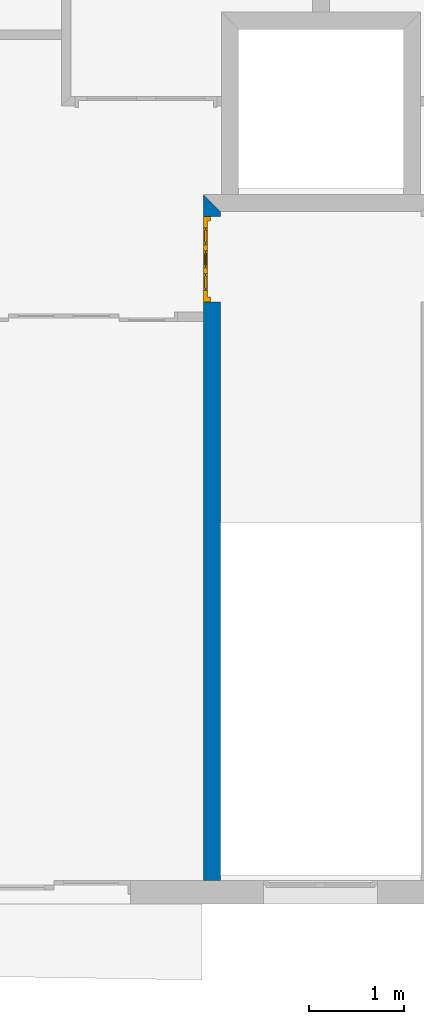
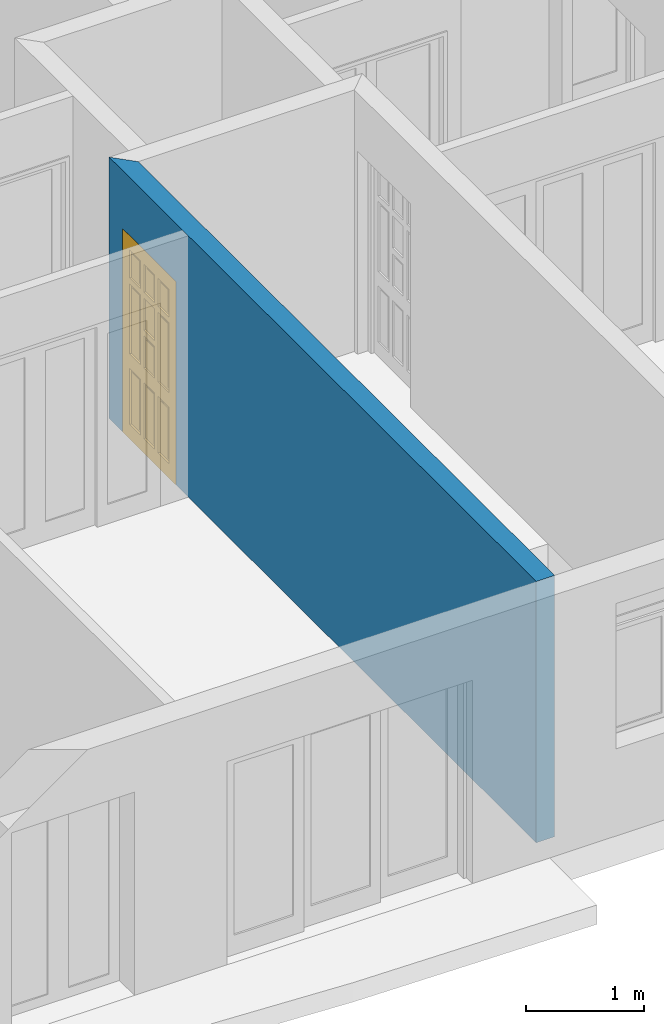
# One storey, part 5 of 12: 1 door, 1 wall, 1 opening.
"""IFC2X3 building model written with IfcOpenShell, lengths in metres."""

from ifc_helpers import new_model, entity, si_unit, converted_unit, direction, frame, frame_2d, origin_with_axes, place, context, project, spatial, polyline, rectangle, outline, extrude, faceted_brep, source, transform, mapped, material, layer, layer_set, layer_usage, type_object, element, fill, save


model = new_model("IFC2X3")

# Units and contexts
context_of_model = context(None, 3, precision=1e-05, world=origin_with_axes(), true_north=direction((6.123234e-17, 1.0)))
plan_context = context("Plan", 3, precision=1e-05, world=origin_with_axes(), true_north=direction((6.123234e-17, 1.0)))
model_context = context("Model", 3, precision=1e-05, world=origin_with_axes(), true_north=direction((6.123234e-17, 1.0)))
ifc_project = project(units=[si_unit("LENGTHUNIT", "METRE"), si_unit("AREAUNIT", "SQUARE_METRE"), si_unit("VOLUMEUNIT", "CUBIC_METRE"), converted_unit("PLANEANGLEUNIT", "DEGREE", entity("IfcPlaneAngleMeasure", 0.017453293), si_unit("PLANEANGLEUNIT", "RADIAN"), dimensions=[0, 0, 0, 0, 0, 0, 0]), si_unit("SOLIDANGLEUNIT", "STERADIAN"), si_unit("MASSUNIT", "GRAM"), si_unit("TIMEUNIT", "SECOND"), si_unit("THERMODYNAMICTEMPERATUREUNIT", "DEGREE_CELSIUS"), si_unit("LUMINOUSINTENSITYUNIT", "LUMEN")], contexts=[context_of_model, plan_context, model_context])

# Site, building, storey
site_placement = place(None, origin_with_axes())
site = spatial("IfcSite", under=ifc_project, at=site_placement, Name="Por defecto Sitio", CompositionType="ELEMENT")
building_placement = place(site_placement, origin_with_axes())
building = spatial("IfcBuilding", under=site, at=building_placement, Name="Por defecto Edificio", CompositionType="ELEMENT")
storey_placement = place(building_placement, frame((0.0, 0.0, 10.2), z_axis=(0.0, 0.0, 1.0), x_axis=(1.0, 0.0, 0.0)))
storey = spatial("IfcBuildingStorey", under=building, at=storey_placement, Name="Tercera", CompositionType="ELEMENT", Elevation=10.2)

# Wall, opening, door
ifc_material = material(Name="Ladrillo común")
ifc_layer = layer(ifc_material, 0.18, ventilated="UNKNOWN")
ifc_layer_set = layer_set([ifc_layer], Name="Ladrillo común")
ifc_layer_usage = layer_usage(ifc_layer_set, "AXIS2", "NEGATIVE", 0.0)
wall_type = type_object("IfcWallType", Name="Ladrillo común", PredefinedType="NOTDEFINED")
wall_placement = place(storey_placement, frame((6.9566603, 7.2976562, 0.0), z_axis=(0.0, 0.0, 1.0), x_axis=(0.0, -1.0, 0.0)))
wall = element("IfcWallStandardCase", 1, at=wall_placement, inside=storey, type_object=wall_type, material=ifc_layer_usage, Name="Muro-010", context=context_of_model, shape_type="SweptSolid", body=[
    extrude(outline(polyline([(-0.18, -0.18), (7.0476562, -0.18), (7.0476562, 0.0), (-8.0824236e-14, 0.0), (-0.18, -0.18)])), origin_with_axes(), (0.0, 0.0, 1.0), 2.7),
])
opening_placement = place(wall_placement, frame((0.5, -0.18, 0.0), z_axis=(0.0, 0.0, 1.0), x_axis=(1.0, 0.0, 0.0)))
opening = element("IfcOpeningElement", 2, at=opening_placement, cuts=wall, ObjectType="Opening", context=model_context, shape_type="SweptSolid", body=[
    extrude(rectangle(XDim=0.9, YDim=2.1, at=frame_2d((0.0, 1.05), x_axis=(-1.0, 0.0))), frame((0.0, 0.0, 0.0), z_axis=(0.0, 1.0, 0.0), x_axis=(-1.0, 0.0, 0.0)), (0.0, 0.0, 1.0), 0.18),
])
door_style = type_object("IfcDoorStyle", Name="P1 Entrada 12", ConstructionType="NOTDEFINED", OperationType="SINGLE_SWING_LEFT", ParameterTakesPrecedence=False, Sizeable=False)
shared_shape = source(origin_with_axes(), model_context, "Body", "Brep", [
    faceted_brep([(0.85, 0.031, 0.0), (0.85, -8.8817842e-16, 0.0), (0.85, -8.8817842e-16, 2.05), (0.85, 0.031, 2.05), (0.862, 0.031, 0.0), (0.862, 0.075, 0.0), (0.9, 0.075, 0.0), (0.9, -8.8817842e-16, 0.0), (0.9, -8.8817842e-16, 2.05), (0.862, 0.031, 2.05), (0.9, 0.075, 2.05), (0.862, 0.075, 2.05)], [[[0, 1, 2, 3]], [[4, 5, 6, 7, 1, 0]], [[7, 8, 2, 1]], [[9, 3, 2, 8, 10, 11]], [[9, 4, 0, 3]], [[11, 5, 4, 9]], [[11, 10, 6, 5]], [[8, 7, 6, 10]]]),
    faceted_brep([(0.038, 0.031, 2.05), (0.038, 0.075, 2.05), (0.0, 0.075, 2.05), (0.0, -8.8817842e-16, 2.05), (0.05, -8.8817842e-16, 2.05), (0.05, 0.031, 2.05), (0.038, 0.031, 0.0), (0.038, 0.075, 0.0), (0.0, 0.075, 0.0), (0.0, 0.0, 0.0), (0.05, -8.8817842e-16, 0.0), (0.05, 0.031, 0.0)], [[[0, 1, 2, 3, 4, 5]], [[0, 6, 7, 1]], [[7, 8, 2, 1]], [[9, 3, 2, 8]], [[10, 4, 3, 9]], [[5, 4, 10, 11]], [[5, 11, 6, 0]], [[6, 11, 10, 9, 8, 7]]]),
    faceted_brep([(0.862, 0.075, 2.062), (0.038, 0.075, 2.062), (0.038, 0.075, 2.05), (0.0, 0.075, 2.05), (0.0, 0.075, 2.1), (0.9, 0.075, 2.1), (0.9, 0.075, 2.05), (0.862, 0.075, 2.05), (0.862, 0.031, 2.062), (0.038, 0.031, 2.062), (0.038, 0.031, 2.05), (0.05, 0.031, 2.05), (0.05, -8.8817842e-16, 2.05), (0.0, -8.8817842e-16, 2.05), (0.0, -8.8817842e-16, 2.1), (0.9, -8.8817842e-16, 2.1), (0.9, -8.8817842e-16, 2.05), (0.862, 0.031, 2.05), (0.85, -8.8817842e-16, 2.05), (0.85, 0.031, 2.05)], [[[0, 1, 2, 3, 4, 5, 6, 7]], [[0, 8, 9, 1]], [[1, 9, 10, 2]], [[10, 11, 12, 13, 3, 2]], [[13, 14, 4, 3]], [[14, 15, 5, 4]], [[15, 16, 6, 5]], [[17, 7, 6, 16, 18, 19]], [[7, 17, 8, 0]], [[10, 9, 8, 17, 19, 11]], [[19, 18, 12, 11]], [[14, 13, 12, 18, 16, 15]]]),
    faceted_brep([(0.038, 0.075, 0.15), (0.118, 0.075, 0.15), (0.118, 0.031, 0.15), (0.038, 0.031, 0.15), (0.038, 0.075, 1.952), (0.118, 0.075, 1.952), (0.118, 0.075, 1.6618667), (0.118, 0.075, 1.6018667), (0.118, 0.075, 0.88), (0.118, 0.075, 0.73), (0.118, 0.031, 0.73), (0.118, 0.031, 0.88), (0.118, 0.031, 1.6018667), (0.118, 0.031, 1.6618667), (0.118, 0.031, 1.952), (0.038, 0.031, 1.952)], [[[0, 1, 2, 3]], [[0, 4, 5, 6, 7, 8, 9, 1]], [[1, 9, 10, 2]], [[3, 2, 10, 11, 12, 13, 14, 15]], [[4, 0, 3, 15]], [[5, 4, 15, 14]], [[6, 5, 14, 13]], [[7, 6, 13, 12]], [[8, 7, 12, 11]], [[9, 8, 11, 10]]]),
    faceted_brep([(0.862, 0.075, 0.15), (0.862, 0.075, 1.952), (0.862, 0.031, 1.952), (0.862, 0.031, 0.15), (0.782, 0.075, 0.15), (0.782, 0.075, 0.73), (0.782, 0.075, 0.88), (0.782, 0.075, 1.6018667), (0.782, 0.075, 1.6618667), (0.782, 0.075, 1.952), (0.782, 0.031, 1.952), (0.782, 0.031, 1.6618667), (0.782, 0.031, 1.6018667), (0.782, 0.031, 0.88), (0.782, 0.031, 0.73), (0.782, 0.031, 0.15)], [[[0, 1, 2, 3]], [[0, 4, 5, 6, 7, 8, 9, 1]], [[1, 9, 10, 2]], [[3, 2, 10, 11, 12, 13, 14, 15]], [[4, 0, 3, 15]], [[5, 4, 15, 14]], [[6, 5, 14, 13]], [[7, 6, 13, 12]], [[8, 7, 12, 11]], [[9, 8, 11, 10]]]),
    faceted_brep([(0.038, 0.075, 0.0), (0.862, 0.075, 0.0), (0.862, 0.031, 0.0), (0.038, 0.031, 0.0), (0.038, 0.075, 0.15), (0.118, 0.075, 0.15), (0.29933333, 0.075, 0.15), (0.35933333, 0.075, 0.15), (0.54066667, 0.075, 0.15), (0.60066667, 0.075, 0.15), (0.782, 0.075, 0.15), (0.862, 0.075, 0.15), (0.862, 0.031, 0.15), (0.782, 0.031, 0.15), (0.60066667, 0.031, 0.15), (0.54066667, 0.031, 0.15), (0.35933333, 0.031, 0.15), (0.29933333, 0.031, 0.15), (0.118, 0.031, 0.15), (0.038, 0.031, 0.15)], [[[0, 1, 2, 3]], [[0, 4, 5, 6, 7, 8, 9, 10, 11, 1]], [[1, 11, 12, 2]], [[3, 2, 12, 13, 14, 15, 16, 17, 18, 19]], [[4, 0, 3, 19]], [[5, 4, 19, 18]], [[6, 5, 18, 17]], [[7, 6, 17, 16]], [[8, 7, 16, 15]], [[9, 8, 15, 14]], [[10, 9, 14, 13]], [[11, 10, 13, 12]]]),
    faceted_brep([(0.038, 0.075, 2.062), (0.038, 0.075, 1.952), (0.038, 0.031, 1.952), (0.038, 0.031, 2.062), (0.862, 0.075, 2.062), (0.862, 0.075, 1.952), (0.782, 0.075, 1.952), (0.60066667, 0.075, 1.952), (0.54066667, 0.075, 1.952), (0.35933333, 0.075, 1.952), (0.29933333, 0.075, 1.952), (0.118, 0.075, 1.952), (0.118, 0.031, 1.952), (0.29933333, 0.031, 1.952), (0.35933333, 0.031, 1.952), (0.54066667, 0.031, 1.952), (0.60066667, 0.031, 1.952), (0.782, 0.031, 1.952), (0.862, 0.031, 1.952), (0.862, 0.031, 2.062)], [[[0, 1, 2, 3]], [[0, 4, 5, 6, 7, 8, 9, 10, 11, 1]], [[1, 11, 12, 2]], [[3, 2, 12, 13, 14, 15, 16, 17, 18, 19]], [[4, 0, 3, 19]], [[5, 4, 19, 18]], [[6, 5, 18, 17]], [[7, 6, 17, 16]], [[8, 7, 16, 15]], [[9, 8, 15, 14]], [[10, 9, 14, 13]], [[11, 10, 13, 12]]]),
    faceted_brep([(0.35933333, 0.075, 0.15), (0.35933333, 0.075, 0.73), (0.35933333, 0.031, 0.73), (0.35933333, 0.031, 0.15), (0.29933333, 0.075, 0.15), (0.29933333, 0.075, 0.73), (0.29933333, 0.031, 0.73), (0.29933333, 0.031, 0.15)], [[[0, 1, 2, 3]], [[0, 4, 5, 1]], [[1, 5, 6, 2]], [[3, 2, 6, 7]], [[4, 0, 3, 7]], [[5, 4, 7, 6]]]),
    faceted_brep([(0.35933333, 0.075, 0.88), (0.35933333, 0.075, 1.2109333), (0.35933333, 0.031, 1.2109333), (0.35933333, 0.031, 0.88), (0.29933333, 0.075, 0.88), (0.29933333, 0.075, 1.6018667), (0.35933333, 0.075, 1.6018667), (0.35933333, 0.075, 1.2709333), (0.35933333, 0.031, 1.2709333), (0.35933333, 0.031, 1.6018667), (0.29933333, 0.031, 1.6018667), (0.29933333, 0.031, 0.88)], [[[0, 1, 2, 3]], [[0, 4, 5, 6, 7, 1]], [[1, 7, 8, 2]], [[3, 2, 8, 9, 10, 11]], [[4, 0, 3, 11]], [[5, 4, 11, 10]], [[6, 5, 10, 9]], [[7, 6, 9, 8]]]),
    faceted_brep([(0.35933333, 0.075, 1.6618667), (0.35933333, 0.075, 1.952), (0.35933333, 0.031, 1.952), (0.35933333, 0.031, 1.6618667), (0.29933333, 0.075, 1.6618667), (0.29933333, 0.075, 1.952), (0.29933333, 0.031, 1.952), (0.29933333, 0.031, 1.6618667)], [[[0, 1, 2, 3]], [[0, 4, 5, 1]], [[1, 5, 6, 2]], [[3, 2, 6, 7]], [[4, 0, 3, 7]], [[5, 4, 7, 6]]]),
    faceted_brep([(0.60066667, 0.075, 0.15), (0.60066667, 0.075, 0.73), (0.60066667, 0.031, 0.73), (0.60066667, 0.031, 0.15), (0.54066667, 0.075, 0.15), (0.54066667, 0.075, 0.73), (0.54066667, 0.031, 0.73), (0.54066667, 0.031, 0.15)], [[[0, 1, 2, 3]], [[0, 4, 5, 1]], [[1, 5, 6, 2]], [[3, 2, 6, 7]], [[4, 0, 3, 7]], [[5, 4, 7, 6]]]),
    faceted_brep([(0.60066667, 0.075, 0.88), (0.60066667, 0.075, 1.6018667), (0.60066667, 0.031, 1.6018667), (0.60066667, 0.031, 0.88), (0.54066667, 0.075, 0.88), (0.54066667, 0.075, 1.2109333), (0.54066667, 0.075, 1.2709333), (0.54066667, 0.075, 1.6018667), (0.54066667, 0.031, 1.6018667), (0.54066667, 0.031, 1.2709333), (0.54066667, 0.031, 1.2109333), (0.54066667, 0.031, 0.88)], [[[0, 1, 2, 3]], [[0, 4, 5, 6, 7, 1]], [[1, 7, 8, 2]], [[3, 2, 8, 9, 10, 11]], [[4, 0, 3, 11]], [[5, 4, 11, 10]], [[6, 5, 10, 9]], [[7, 6, 9, 8]]]),
    faceted_brep([(0.60066667, 0.075, 1.6618667), (0.60066667, 0.075, 1.952), (0.60066667, 0.031, 1.952), (0.60066667, 0.031, 1.6618667), (0.54066667, 0.075, 1.6618667), (0.54066667, 0.075, 1.952), (0.54066667, 0.031, 1.952), (0.54066667, 0.031, 1.6618667)], [[[0, 1, 2, 3]], [[0, 4, 5, 1]], [[1, 5, 6, 2]], [[3, 2, 6, 7]], [[4, 0, 3, 7]], [[5, 4, 7, 6]]]),
    faceted_brep([(0.118, 0.075, 1.6018667), (0.29933333, 0.075, 1.6018667), (0.29933333, 0.031, 1.6018667), (0.118, 0.031, 1.6018667), (0.118, 0.075, 1.6618667), (0.29933333, 0.075, 1.6618667), (0.35933333, 0.075, 1.6618667), (0.54066667, 0.075, 1.6618667), (0.60066667, 0.075, 1.6618667), (0.782, 0.075, 1.6618667), (0.782, 0.075, 1.6018667), (0.60066667, 0.075, 1.6018667), (0.54066667, 0.075, 1.6018667), (0.35933333, 0.075, 1.6018667), (0.35933333, 0.031, 1.6018667), (0.54066667, 0.031, 1.6018667), (0.60066667, 0.031, 1.6018667), (0.782, 0.031, 1.6018667), (0.782, 0.031, 1.6618667), (0.60066667, 0.031, 1.6618667), (0.54066667, 0.031, 1.6618667), (0.35933333, 0.031, 1.6618667), (0.29933333, 0.031, 1.6618667), (0.118, 0.031, 1.6618667)], [[[0, 1, 2, 3]], [[0, 4, 5, 6, 7, 8, 9, 10, 11, 12, 13, 1]], [[1, 13, 14, 2]], [[3, 2, 14, 15, 16, 17, 18, 19, 20, 21, 22, 23]], [[4, 0, 3, 23]], [[5, 4, 23, 22]], [[6, 5, 22, 21]], [[7, 6, 21, 20]], [[8, 7, 20, 19]], [[9, 8, 19, 18]], [[10, 9, 18, 17]], [[11, 10, 17, 16]], [[12, 11, 16, 15]], [[13, 12, 15, 14]]]),
    faceted_brep([(0.54066667, 0.075, 1.2109333), (0.54066667, 0.075, 1.2709333), (0.54066667, 0.031, 1.2709333), (0.54066667, 0.031, 1.2109333), (0.35933333, 0.075, 1.2109333), (0.35933333, 0.075, 1.2709333), (0.35933333, 0.031, 1.2709333), (0.35933333, 0.031, 1.2109333)], [[[0, 1, 2, 3]], [[0, 4, 5, 1]], [[1, 5, 6, 2]], [[3, 2, 6, 7]], [[4, 0, 3, 7]], [[5, 4, 7, 6]]]),
    faceted_brep([(0.118, 0.075, 0.73), (0.29933333, 0.075, 0.73), (0.29933333, 0.031, 0.73), (0.118, 0.031, 0.73), (0.118, 0.075, 0.88), (0.29933333, 0.075, 0.88), (0.35933333, 0.075, 0.88), (0.54066667, 0.075, 0.88), (0.60066667, 0.075, 0.88), (0.782, 0.075, 0.88), (0.782, 0.075, 0.73), (0.60066667, 0.075, 0.73), (0.54066667, 0.075, 0.73), (0.35933333, 0.075, 0.73), (0.35933333, 0.031, 0.73), (0.54066667, 0.031, 0.73), (0.60066667, 0.031, 0.73), (0.782, 0.031, 0.73), (0.782, 0.031, 0.88), (0.60066667, 0.031, 0.88), (0.54066667, 0.031, 0.88), (0.35933333, 0.031, 0.88), (0.29933333, 0.031, 0.88), (0.118, 0.031, 0.88)], [[[0, 1, 2, 3]], [[0, 4, 5, 6, 7, 8, 9, 10, 11, 12, 13, 1]], [[1, 13, 14, 2]], [[3, 2, 14, 15, 16, 17, 18, 19, 20, 21, 22, 23]], [[4, 0, 3, 23]], [[5, 4, 23, 22]], [[6, 5, 22, 21]], [[7, 6, 21, 20]], [[8, 7, 20, 19]], [[9, 8, 19, 18]], [[10, 9, 18, 17]], [[11, 10, 17, 16]], [[12, 11, 16, 15]], [[13, 12, 15, 14]]]),
    faceted_brep([(0.118, 0.058, 0.15), (0.29933333, 0.058, 0.15), (0.29933333, 0.048, 0.15), (0.118, 0.048, 0.15), (0.118, 0.058, 0.73), (0.29933333, 0.058, 0.73), (0.29933333, 0.048, 0.73), (0.118, 0.048, 0.73)], [[[0, 1, 2, 3]], [[0, 4, 5, 1]], [[1, 5, 6, 2]], [[3, 2, 6, 7]], [[4, 0, 3, 7]], [[5, 4, 7, 6]]]),
    faceted_brep([(0.35933333, 0.058, 0.15), (0.54066667, 0.058, 0.15), (0.54066667, 0.048, 0.15), (0.35933333, 0.048, 0.15), (0.35933333, 0.058, 0.73), (0.54066667, 0.058, 0.73), (0.54066667, 0.048, 0.73), (0.35933333, 0.048, 0.73)], [[[0, 1, 2, 3]], [[0, 4, 5, 1]], [[1, 5, 6, 2]], [[3, 2, 6, 7]], [[4, 0, 3, 7]], [[5, 4, 7, 6]]]),
    faceted_brep([(0.60066667, 0.058, 0.15), (0.782, 0.058, 0.15), (0.782, 0.048, 0.15), (0.60066667, 0.048, 0.15), (0.60066667, 0.058, 0.73), (0.782, 0.058, 0.73), (0.782, 0.048, 0.73), (0.60066667, 0.048, 0.73)], [[[0, 1, 2, 3]], [[0, 4, 5, 1]], [[1, 5, 6, 2]], [[3, 2, 6, 7]], [[4, 0, 3, 7]], [[5, 4, 7, 6]]]),
    faceted_brep([(0.118, 0.058, 1.6618667), (0.29933333, 0.058, 1.6618667), (0.29933333, 0.048, 1.6618667), (0.118, 0.048, 1.6618667), (0.118, 0.058, 1.952), (0.29933333, 0.058, 1.952), (0.29933333, 0.048, 1.952), (0.118, 0.048, 1.952)], [[[0, 1, 2, 3]], [[0, 4, 5, 1]], [[1, 5, 6, 2]], [[3, 2, 6, 7]], [[4, 0, 3, 7]], [[5, 4, 7, 6]]]),
    faceted_brep([(0.35933333, 0.058, 1.6618667), (0.54066667, 0.058, 1.6618667), (0.54066667, 0.048, 1.6618667), (0.35933333, 0.048, 1.6618667), (0.35933333, 0.058, 1.952), (0.54066667, 0.058, 1.952), (0.54066667, 0.048, 1.952), (0.35933333, 0.048, 1.952)], [[[0, 1, 2, 3]], [[0, 4, 5, 1]], [[1, 5, 6, 2]], [[3, 2, 6, 7]], [[4, 0, 3, 7]], [[5, 4, 7, 6]]]),
    faceted_brep([(0.60066667, 0.058, 1.6618667), (0.782, 0.058, 1.6618667), (0.782, 0.048, 1.6618667), (0.60066667, 0.048, 1.6618667), (0.60066667, 0.058, 1.952), (0.782, 0.058, 1.952), (0.782, 0.048, 1.952), (0.60066667, 0.048, 1.952)], [[[0, 1, 2, 3]], [[0, 4, 5, 1]], [[1, 5, 6, 2]], [[3, 2, 6, 7]], [[4, 0, 3, 7]], [[5, 4, 7, 6]]]),
    faceted_brep([(0.118, 0.058, 0.88), (0.29933333, 0.058, 0.88), (0.29933333, 0.048, 0.88), (0.118, 0.048, 0.88), (0.118, 0.058, 1.6018667), (0.29933333, 0.058, 1.6018667), (0.29933333, 0.048, 1.6018667), (0.118, 0.048, 1.6018667)], [[[0, 1, 2, 3]], [[0, 4, 5, 1]], [[1, 5, 6, 2]], [[3, 2, 6, 7]], [[4, 0, 3, 7]], [[5, 4, 7, 6]]]),
    faceted_brep([(0.35933333, 0.058, 0.88), (0.54066667, 0.058, 0.88), (0.54066667, 0.048, 0.88), (0.35933333, 0.048, 0.88), (0.35933333, 0.058, 1.2109333), (0.54066667, 0.058, 1.2109333), (0.54066667, 0.048, 1.2109333), (0.35933333, 0.048, 1.2109333)], [[[0, 1, 2, 3]], [[0, 4, 5, 1]], [[1, 5, 6, 2]], [[3, 2, 6, 7]], [[4, 0, 3, 7]], [[5, 4, 7, 6]]]),
    faceted_brep([(0.60066667, 0.058, 0.88), (0.782, 0.058, 0.88), (0.782, 0.048, 0.88), (0.60066667, 0.048, 0.88), (0.60066667, 0.058, 1.6018667), (0.782, 0.058, 1.6018667), (0.782, 0.048, 1.6018667), (0.60066667, 0.048, 1.6018667)], [[[0, 1, 2, 3]], [[0, 4, 5, 1]], [[1, 5, 6, 2]], [[3, 2, 6, 7]], [[4, 0, 3, 7]], [[5, 4, 7, 6]]]),
    faceted_brep([(0.35933333, 0.058, 1.2709333), (0.54066667, 0.058, 1.2709333), (0.54066667, 0.048, 1.2709333), (0.35933333, 0.048, 1.2709333), (0.35933333, 0.058, 1.6018667), (0.54066667, 0.058, 1.6018667), (0.54066667, 0.048, 1.6018667), (0.35933333, 0.048, 1.6018667)], [[[0, 1, 2, 3]], [[0, 4, 5, 1]], [[1, 5, 6, 2]], [[3, 2, 6, 7]], [[4, 0, 3, 7]], [[5, 4, 7, 6]]]),
    faceted_brep([(0.148, 0.066, 0.18), (0.26933333, 0.066, 0.18), (0.26933333, 0.058, 0.18), (0.148, 0.058, 0.18), (0.148, 0.066, 0.7), (0.26933333, 0.066, 0.7), (0.26933333, 0.058, 0.7), (0.148, 0.058, 0.7)], [[[0, 1, 2, 3]], [[0, 4, 5, 1]], [[1, 5, 6, 2]], [[3, 2, 6, 7]], [[4, 0, 3, 7]], [[5, 4, 7, 6]]]),
    faceted_brep([(0.38933333, 0.066, 0.18), (0.51066667, 0.066, 0.18), (0.51066667, 0.058, 0.18), (0.38933333, 0.058, 0.18), (0.38933333, 0.066, 0.7), (0.51066667, 0.066, 0.7), (0.51066667, 0.058, 0.7), (0.38933333, 0.058, 0.7)], [[[0, 1, 2, 3]], [[0, 4, 5, 1]], [[1, 5, 6, 2]], [[3, 2, 6, 7]], [[4, 0, 3, 7]], [[5, 4, 7, 6]]]),
    faceted_brep([(0.63066667, 0.066, 0.18), (0.752, 0.066, 0.18), (0.752, 0.058, 0.18), (0.63066667, 0.058, 0.18), (0.63066667, 0.066, 0.7), (0.752, 0.066, 0.7), (0.752, 0.058, 0.7), (0.63066667, 0.058, 0.7)], [[[0, 1, 2, 3]], [[0, 4, 5, 1]], [[1, 5, 6, 2]], [[3, 2, 6, 7]], [[4, 0, 3, 7]], [[5, 4, 7, 6]]]),
    faceted_brep([(0.148, 0.066, 1.6918667), (0.26933333, 0.066, 1.6918667), (0.26933333, 0.058, 1.6918667), (0.148, 0.058, 1.6918667), (0.148, 0.066, 1.922), (0.26933333, 0.066, 1.922), (0.26933333, 0.058, 1.922), (0.148, 0.058, 1.922)], [[[0, 1, 2, 3]], [[0, 4, 5, 1]], [[1, 5, 6, 2]], [[3, 2, 6, 7]], [[4, 0, 3, 7]], [[5, 4, 7, 6]]]),
    faceted_brep([(0.38933333, 0.066, 1.6918667), (0.51066667, 0.066, 1.6918667), (0.51066667, 0.058, 1.6918667), (0.38933333, 0.058, 1.6918667), (0.38933333, 0.066, 1.922), (0.51066667, 0.066, 1.922), (0.51066667, 0.058, 1.922), (0.38933333, 0.058, 1.922)], [[[0, 1, 2, 3]], [[0, 4, 5, 1]], [[1, 5, 6, 2]], [[3, 2, 6, 7]], [[4, 0, 3, 7]], [[5, 4, 7, 6]]]),
    faceted_brep([(0.63066667, 0.066, 1.6918667), (0.752, 0.066, 1.6918667), (0.752, 0.058, 1.6918667), (0.63066667, 0.058, 1.6918667), (0.63066667, 0.066, 1.922), (0.752, 0.066, 1.922), (0.752, 0.058, 1.922), (0.63066667, 0.058, 1.922)], [[[0, 1, 2, 3]], [[0, 4, 5, 1]], [[1, 5, 6, 2]], [[3, 2, 6, 7]], [[4, 0, 3, 7]], [[5, 4, 7, 6]]]),
    faceted_brep([(0.148, 0.066, 0.91), (0.26933333, 0.066, 0.91), (0.26933333, 0.058, 0.91), (0.148, 0.058, 0.91), (0.148, 0.066, 1.5718667), (0.26933333, 0.066, 1.5718667), (0.26933333, 0.058, 1.5718667), (0.148, 0.058, 1.5718667)], [[[0, 1, 2, 3]], [[0, 4, 5, 1]], [[1, 5, 6, 2]], [[3, 2, 6, 7]], [[4, 0, 3, 7]], [[5, 4, 7, 6]]]),
    faceted_brep([(0.38933333, 0.066, 0.91), (0.51066667, 0.066, 0.91), (0.51066667, 0.058, 0.91), (0.38933333, 0.058, 0.91), (0.38933333, 0.066, 1.1809333), (0.51066667, 0.066, 1.1809333), (0.51066667, 0.058, 1.1809333), (0.38933333, 0.058, 1.1809333)], [[[0, 1, 2, 3]], [[0, 4, 5, 1]], [[1, 5, 6, 2]], [[3, 2, 6, 7]], [[4, 0, 3, 7]], [[5, 4, 7, 6]]]),
    faceted_brep([(0.63066667, 0.066, 0.91), (0.752, 0.066, 0.91), (0.752, 0.058, 0.91), (0.63066667, 0.058, 0.91), (0.63066667, 0.066, 1.5718667), (0.752, 0.066, 1.5718667), (0.752, 0.058, 1.5718667), (0.63066667, 0.058, 1.5718667)], [[[0, 1, 2, 3]], [[0, 4, 5, 1]], [[1, 5, 6, 2]], [[3, 2, 6, 7]], [[4, 0, 3, 7]], [[5, 4, 7, 6]]]),
    faceted_brep([(0.148, 0.048, 0.18), (0.26933333, 0.048, 0.18), (0.26933333, 0.04, 0.18), (0.148, 0.04, 0.18), (0.148, 0.048, 0.7), (0.26933333, 0.048, 0.7), (0.26933333, 0.04, 0.7), (0.148, 0.04, 0.7)], [[[0, 1, 2, 3]], [[0, 4, 5, 1]], [[1, 5, 6, 2]], [[3, 2, 6, 7]], [[4, 0, 3, 7]], [[5, 4, 7, 6]]]),
    faceted_brep([(0.38933333, 0.048, 0.18), (0.51066667, 0.048, 0.18), (0.51066667, 0.04, 0.18), (0.38933333, 0.04, 0.18), (0.38933333, 0.048, 0.7), (0.51066667, 0.048, 0.7), (0.51066667, 0.04, 0.7), (0.38933333, 0.04, 0.7)], [[[0, 1, 2, 3]], [[0, 4, 5, 1]], [[1, 5, 6, 2]], [[3, 2, 6, 7]], [[4, 0, 3, 7]], [[5, 4, 7, 6]]]),
    faceted_brep([(0.63066667, 0.048, 0.18), (0.752, 0.048, 0.18), (0.752, 0.04, 0.18), (0.63066667, 0.04, 0.18), (0.63066667, 0.048, 0.7), (0.752, 0.048, 0.7), (0.752, 0.04, 0.7), (0.63066667, 0.04, 0.7)], [[[0, 1, 2, 3]], [[0, 4, 5, 1]], [[1, 5, 6, 2]], [[3, 2, 6, 7]], [[4, 0, 3, 7]], [[5, 4, 7, 6]]]),
    faceted_brep([(0.148, 0.048, 1.6918667), (0.26933333, 0.048, 1.6918667), (0.26933333, 0.04, 1.6918667), (0.148, 0.04, 1.6918667), (0.148, 0.048, 1.922), (0.26933333, 0.048, 1.922), (0.26933333, 0.04, 1.922), (0.148, 0.04, 1.922)], [[[0, 1, 2, 3]], [[0, 4, 5, 1]], [[1, 5, 6, 2]], [[3, 2, 6, 7]], [[4, 0, 3, 7]], [[5, 4, 7, 6]]]),
    faceted_brep([(0.38933333, 0.048, 1.6918667), (0.51066667, 0.048, 1.6918667), (0.51066667, 0.04, 1.6918667), (0.38933333, 0.04, 1.6918667), (0.38933333, 0.048, 1.922), (0.51066667, 0.048, 1.922), (0.51066667, 0.04, 1.922), (0.38933333, 0.04, 1.922)], [[[0, 1, 2, 3]], [[0, 4, 5, 1]], [[1, 5, 6, 2]], [[3, 2, 6, 7]], [[4, 0, 3, 7]], [[5, 4, 7, 6]]]),
    faceted_brep([(0.63066667, 0.048, 1.6918667), (0.752, 0.048, 1.6918667), (0.752, 0.04, 1.6918667), (0.63066667, 0.04, 1.6918667), (0.63066667, 0.048, 1.922), (0.752, 0.048, 1.922), (0.752, 0.04, 1.922), (0.63066667, 0.04, 1.922)], [[[0, 1, 2, 3]], [[0, 4, 5, 1]], [[1, 5, 6, 2]], [[3, 2, 6, 7]], [[4, 0, 3, 7]], [[5, 4, 7, 6]]]),
    faceted_brep([(0.148, 0.048, 0.91), (0.26933333, 0.048, 0.91), (0.26933333, 0.04, 0.91), (0.148, 0.04, 0.91), (0.148, 0.048, 1.5718667), (0.26933333, 0.048, 1.5718667), (0.26933333, 0.04, 1.5718667), (0.148, 0.04, 1.5718667)], [[[0, 1, 2, 3]], [[0, 4, 5, 1]], [[1, 5, 6, 2]], [[3, 2, 6, 7]], [[4, 0, 3, 7]], [[5, 4, 7, 6]]]),
    faceted_brep([(0.38933333, 0.048, 0.91), (0.51066667, 0.048, 0.91), (0.51066667, 0.04, 0.91), (0.38933333, 0.04, 0.91), (0.38933333, 0.048, 1.1809333), (0.51066667, 0.048, 1.1809333), (0.51066667, 0.04, 1.1809333), (0.38933333, 0.04, 1.1809333)], [[[0, 1, 2, 3]], [[0, 4, 5, 1]], [[1, 5, 6, 2]], [[3, 2, 6, 7]], [[4, 0, 3, 7]], [[5, 4, 7, 6]]]),
    faceted_brep([(0.63066667, 0.048, 0.91), (0.752, 0.048, 0.91), (0.752, 0.04, 0.91), (0.63066667, 0.04, 0.91), (0.63066667, 0.048, 1.5718667), (0.752, 0.048, 1.5718667), (0.752, 0.04, 1.5718667), (0.63066667, 0.04, 1.5718667)], [[[0, 1, 2, 3]], [[0, 4, 5, 1]], [[1, 5, 6, 2]], [[3, 2, 6, 7]], [[4, 0, 3, 7]], [[5, 4, 7, 6]]]),
])
door_placement = place(opening_placement, frame((0.45, 0.075, 0.0), z_axis=(0.0, 0.0, 1.0), x_axis=(-1.0, 0.0, 0.0)))
door = element("IfcDoor", 3, at=door_placement, inside=storey, type_object=door_style, Name="P12", OverallHeight=2.1, OverallWidth=0.9, context=model_context, shape_type="MappedRepresentation", body=[
    mapped(shared_shape, transform((0.0, 0.0, 0.0), scale=1.0)),
])
fill(opening, door)

save(model, "model.ifc")
